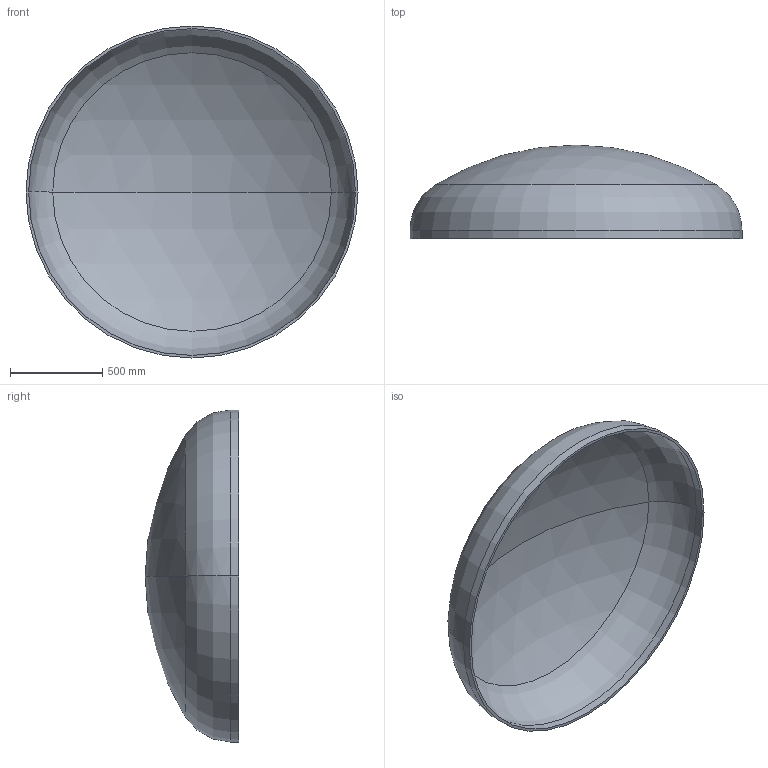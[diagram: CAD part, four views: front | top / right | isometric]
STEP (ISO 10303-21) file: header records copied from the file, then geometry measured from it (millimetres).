
FILE_DESCRIPTION (( 'STEP AP203' ), '1' );
FILE_NAME ('DIN 28013 Korbbogenform_-_Boden DIN 28013 - 1800 x 45 - I - s=14.step', '2016-07-01T12:17:55', ( '' ), ( '' ), 'SwSTEP 2.0', 'SolidWorks 2013', '' );
FILE_SCHEMA (( 'CONFIG_CONTROL_DESIGN' ));
Length unit declared in the file: millimetre
Products named in the file (1): DIN 28013 Korbbogenform_-_Boden DIN 28013 - 1800 x 45 - I - s=14
Bounding box: 1800 x 507.08 x 1800 mm (x, y, z)
Volume: 52295610.4 mm3; surface area: 7549761.5 mm2
Topology: 1 solids, 1 shells, 13 faces, 24 edges, 14 vertices
Faces by surface type: torus 4, cylinder 4, sphere 4, plane 1
Entity records: 407 total; most frequent: DIRECTION 72, CARTESIAN_POINT 52, ORIENTED_EDGE 48, AXIS2_PLACEMENT_3D 34, EDGE_CURVE 24, CIRCLE 20, VERTEX_POINT 14, EDGE_LOOP 14
